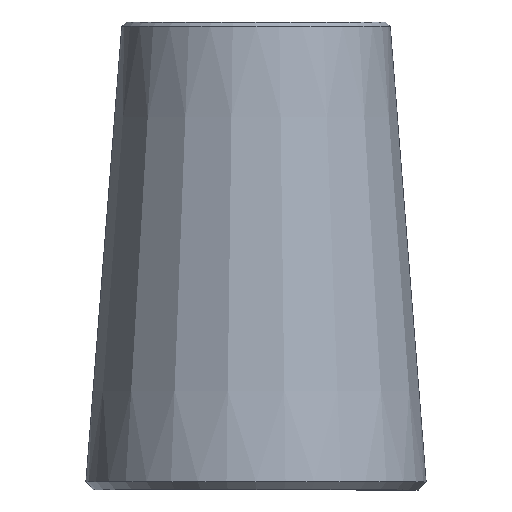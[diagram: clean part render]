
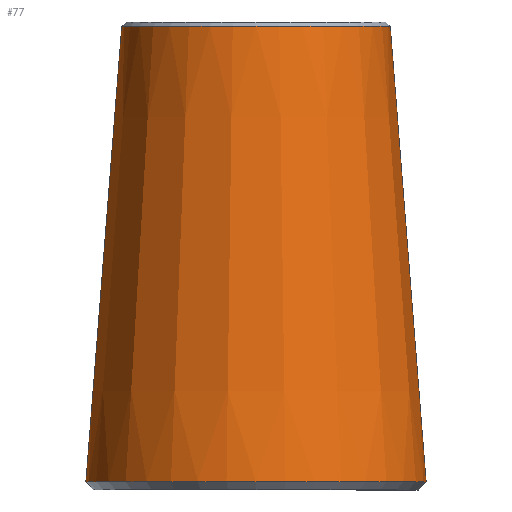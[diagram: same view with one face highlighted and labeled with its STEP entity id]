
A CAD part, left-side view. The second image highlights one B-rep face of the part: STEP entity #77.
In plain terms, the highlighted conical face has half-angle 4.5 degrees and reference radius 18.066 mm.
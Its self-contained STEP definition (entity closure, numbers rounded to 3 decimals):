
#20=FACE_BOUND('',#34,.T.);
#25=FACE_OUTER_BOUND('',#33,.T.);
#33=EDGE_LOOP('',(#63));
#34=EDGE_LOOP('',(#64));
#44=CIRCLE('',#87,20.172);
#45=CIRCLE('',#89,15.921);
#50=VERTEX_POINT('',#130);
#51=VERTEX_POINT('',#133);
#56=EDGE_CURVE('',#50,#50,#44,.T.);
#57=EDGE_CURVE('',#51,#51,#45,.T.);
#63=ORIENTED_EDGE('',*,*,#57,.F.);
#64=ORIENTED_EDGE('',*,*,#56,.F.);
#74=CONICAL_SURFACE('',#88,18.066,4.5);
#77=ADVANCED_FACE('',(#25,#20),#74,.T.);
#87=AXIS2_PLACEMENT_3D('',#131,#104,#105);
#88=AXIS2_PLACEMENT_3D('',#132,#106,#107);
#89=AXIS2_PLACEMENT_3D('',#134,#108,#109);
#104=DIRECTION('center_axis',(0.,0.,
-1.));
#105=DIRECTION('ref_axis',(0.,1.,0.));
#106=DIRECTION('center_axis',(0.,0.,-1.));
#107=DIRECTION('ref_axis',(0.,-1.,0.));
#108=DIRECTION('center_axis',(0.,0.,1.));
#109=DIRECTION('ref_axis',(0.,1.,0.));
#130=CARTESIAN_POINT('',(0.,-20.172,0.997));
#131=CARTESIAN_POINT('Origin',(0.,0.,0.997));
#132=CARTESIAN_POINT('Origin',(0.,0.,27.75));
#133=CARTESIAN_POINT('',(0.,-15.921,55.002));
#134=CARTESIAN_POINT('Origin',(0.,0.,
55.002));
